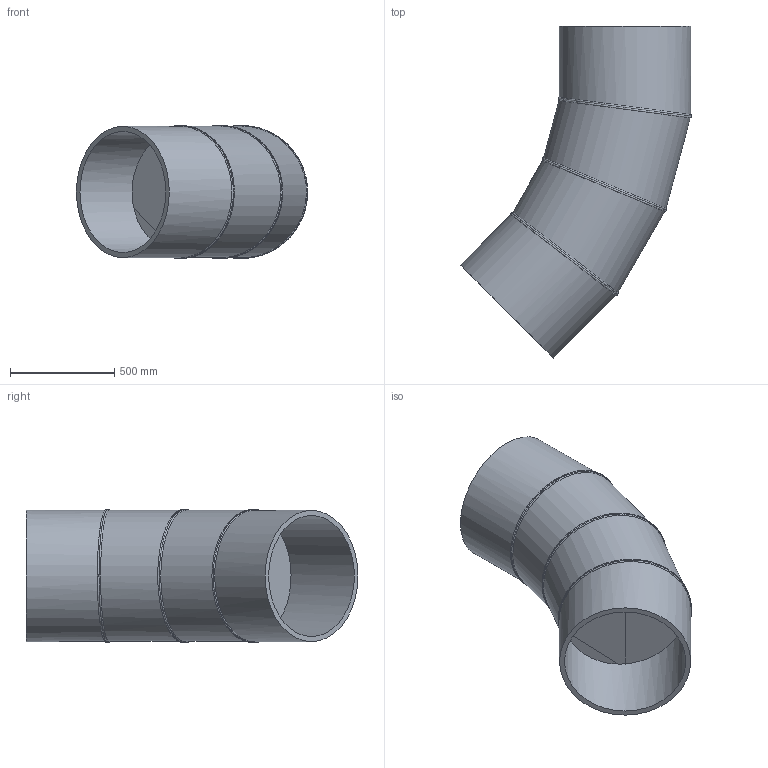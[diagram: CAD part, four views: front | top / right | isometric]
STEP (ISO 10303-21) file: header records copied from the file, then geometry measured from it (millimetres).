
FILE_DESCRIPTION(/* description */ ('Unknown'),/* implementation_level */ '2;1');
FILE_NAME(/* name */ 'Curva 45° a settore DE630 SDR26',/* time_stamp */ '2022-07-26T10:04:32+02:00',/* author */ ('Unknown'),/* organization */ ('Unknown'),/* preprocessor_version */ 'ST-DEVELOPER v18.102',/* originating_system */ 'Solid Edge',/* authorisation */ 'Unknown');
FILE_SCHEMA (('AUTOMOTIVE_DESIGN {1 0 10303 214 3 1 1}'));
Length unit declared in the file: millimetre
Products named in the file (3): Curva 45° a settore DE630 SDR26; Tubo x Gomito 45° DE630 SDR26 - 1; Tubo x Gomito 45° DE630 SDR26 - 2
Assembly tree (4 placements, depth 2):
  Curva 45° a settore DE630 SDR26
    Tubo x Gomito 45° DE630 SDR26 - 1  x2
    Tubo x Gomito 45° DE630 SDR26 - 2  x2
Bounding box: 1109.12 x 1592.55 x 637.99 mm (x, y, z)
Volume: 71352638 mm3; surface area: 6321391.3 mm2
Topology: 4 solids, 4 shells, 34 faces, 74 edges, 48 vertices
Faces by surface type: cylinder 20, plane 8, bspline 6
Full cylindrical faces by diameter (mm): 581.8 x4, 630 x4
Entity records: 3422 total; most frequent: CARTESIAN_POINT 3020, DIRECTION 72, ORIENTED_EDGE 52, AXIS2_PLACEMENT_3D 36, EDGE_LOOP 28, FACE_BOUND 28, EDGE_CURVE 26, VERTEX_POINT 20
